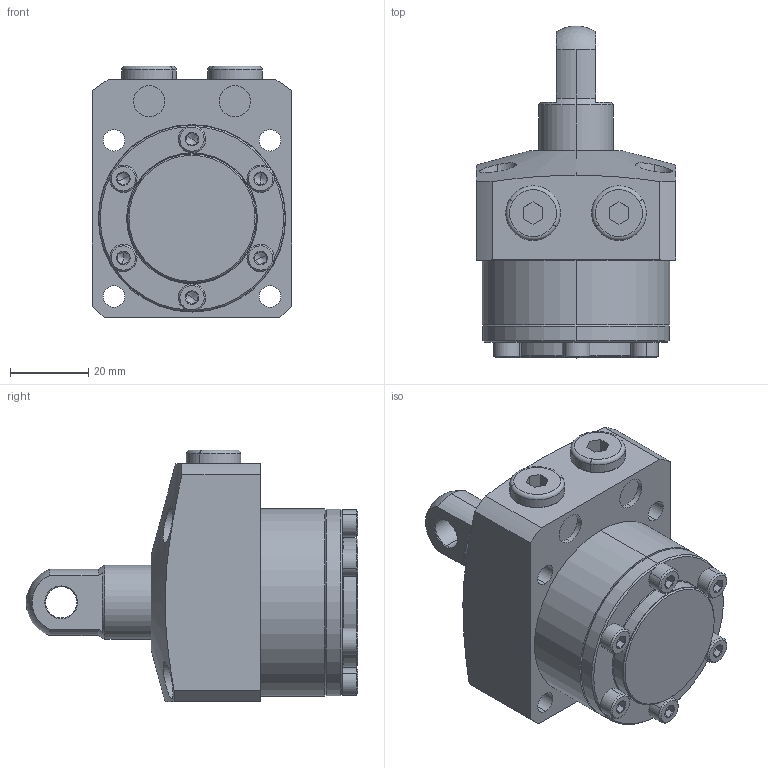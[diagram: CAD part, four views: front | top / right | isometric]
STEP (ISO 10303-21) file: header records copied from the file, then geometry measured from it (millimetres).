
FILE_DESCRIPTION (( 'STEP AP203' ), '1' );
FILE_NAME ('680480-CP-015.STEP', '2019-11-06T04:38:41', ( '微软用户' ), ( '微软中国' ), 'SwSTEP 2.0', 'SolidWorks 2014', '' );
FILE_SCHEMA (( 'CONFIG_CONTROL_DESIGN' ));
Length unit declared in the file: millimetre
Products named in the file (6): 葩璃 680480-CA-15-1^680480-CP-015; 葩璃 680480-CA-15-3^680480-CP-015; 葩璃 680480-CA-15-4^680480-CP-015; 葩璃 680480-CA-15-5^680480-CP-015; 葩璃 680480-15-14^680480-CP-015; 680480-CP-015
Assembly tree (11 placements, depth 2):
  680480-CP-015
    葩璃 680480-CA-15-1^680480-CP-015
    葩璃 680480-CA-15-3^680480-CP-015
    葩璃 680480-CA-15-4^680480-CP-015  x6
    葩璃 680480-CA-15-5^680480-CP-015  x2
    葩璃 680480-15-14^680480-CP-015
Bounding box: 51 x 85 x 64.5 mm (x, y, z)
Volume: 119771.7 mm3; surface area: 27756.4 mm2
Topology: 11 solids, 11 shells, 342 faces, 672 edges, 368 vertices
Faces by surface type: plane 137, cone 96, cylinder 91, torus 16, sphere 2
Entity records: 5593 total; most frequent: CARTESIAN_POINT 1138, DIRECTION 853, ORIENTED_EDGE 692, AXIS2_PLACEMENT_3D 358, EDGE_CURVE 346, VERTEX_POINT 211, EDGE_LOOP 199, CIRCLE 183
